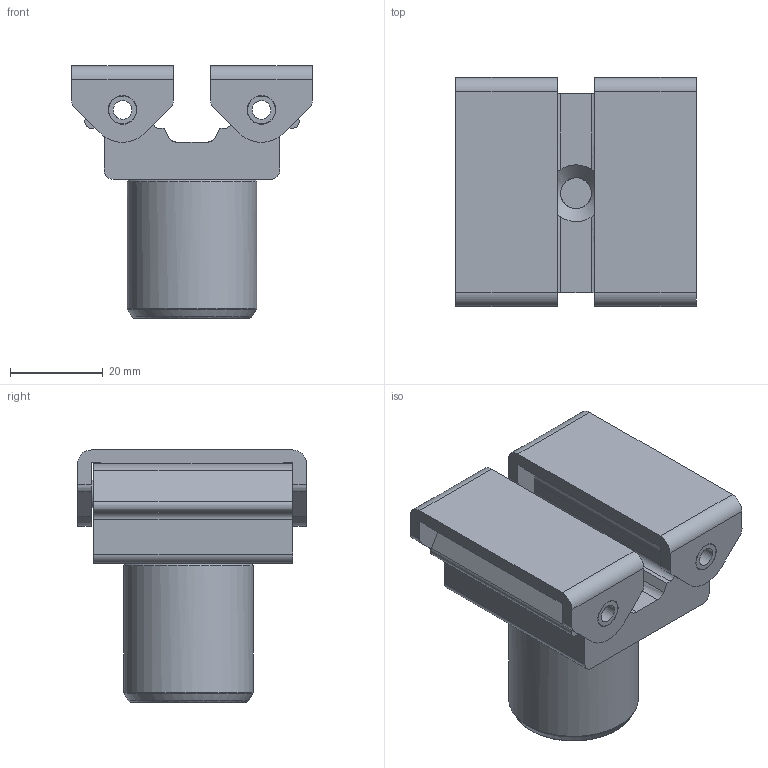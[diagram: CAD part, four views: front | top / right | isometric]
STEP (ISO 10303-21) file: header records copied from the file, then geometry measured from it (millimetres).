
FILE_DESCRIPTION( ('This file contains a STEP AP42 implementation' ,'as created by ZW3D STEP Interface translator.') ,'2;1' );
FILE_NAME( '3205306_TW28VAD.stp' ,'14 414.144158', (''), ('ZWCAD Software Co.'), 'Version 1.0', 'ZW3D to STEP translator', '' );
FILE_SCHEMA( ('CONFIG_CONTROL_DESIGN') );
Length unit declared in the file: millimetre
Products named in the file (7): 0; 3205306_TW28VAD; 3101653a_Brücke TW kpl; 3003151b_VAD_Brücke; 3003153_VAD_Brücke_kpl_Druckkap; 3003165_Spannstift6x16_8750; 3008827a_Steckbolzen TW28
Assembly tree (8 placements, depth 3):
  0
  3205306_TW28VAD
    3101653a_Brücke TW kpl
      3003151b_VAD_Brücke
      3003153_VAD_Brücke_kpl_Druckkap
      3003165_Spannstift6x16_8750  x4
    3008827a_Steckbolzen TW28
Bounding box: 52 x 49.5 x 54.5 mm (x, y, z)
Volume: 50814.1 mm3; surface area: 22680.3 mm2
Topology: 8 solids, 9 shells, 126 faces, 319 edges, 209 vertices
Faces by surface type: bspline 126
Entity records: 5498 total; most frequent: CARTESIAN_POINT 3439, ORIENTED_EDGE 603, EDGE_CURVE 301, VERTEX_POINT 197, B_SPLINE_CURVE_WITH_KNOTS 187, EDGE_LOOP 131, FACE_OUTER_BOUND 114, ADVANCED_FACE 114
